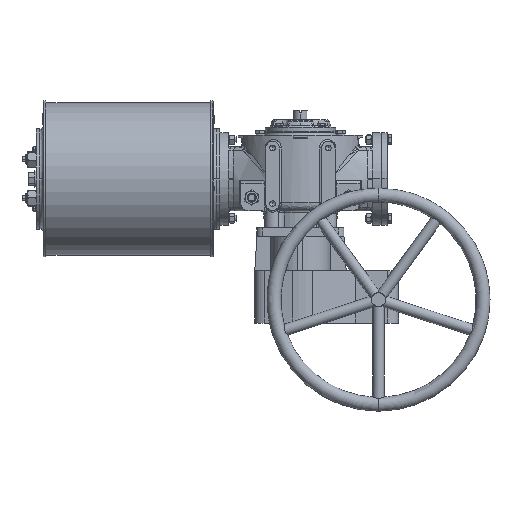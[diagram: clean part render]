
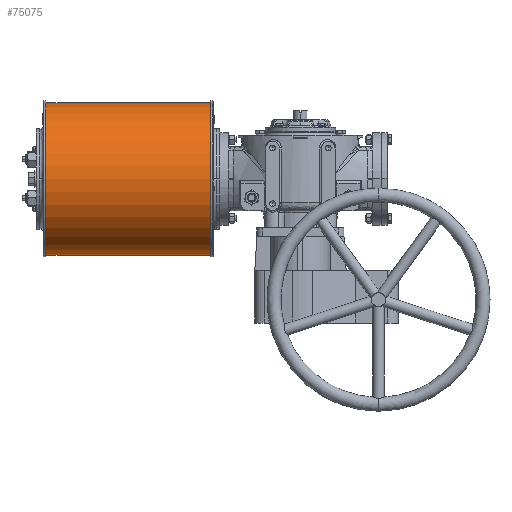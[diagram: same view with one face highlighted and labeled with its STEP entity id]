
A CAD part, front view. The second image highlights one B-rep face of the part: STEP entity #75075.
In plain terms, the highlighted cylindrical face has radius 136.5 mm (diameter 273 mm), a partial arc.
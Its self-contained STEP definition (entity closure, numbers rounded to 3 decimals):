
#4733 = VERTEX_POINT ( 'NONE', #18956 ) ;
#6682 = EDGE_CURVE ( 'NONE', #27305, #76774, #82133, .T. ) ;
#7847 = CIRCLE ( 'NONE', #17249, 136.5 ) ;
#7907 = CIRCLE ( 'NONE', #50933, 136.5 ) ;
#8529 = CARTESIAN_POINT ( 'NONE',  ( -161.5, 22.5, -79. ) ) ;
#9400 = DIRECTION ( 'NONE',  ( 1., 0., 0. ) ) ;
#12163 = DIRECTION ( 'NONE',  ( 1., 0., 0. ) ) ;
#14665 = DIRECTION ( 'NONE',  ( 1., 0., 0. ) ) ;
#15600 = EDGE_CURVE ( 'NONE', #4733, #37384, #47682, .T. ) ;
#17249 = AXIS2_PLACEMENT_3D ( 'NONE', #48772, #37819, #23945 ) ;
#18956 = CARTESIAN_POINT ( 'NONE',  ( -456.5, 22.5, -79. ) ) ;
#20972 = CARTESIAN_POINT ( 'NONE',  ( -456.5, 22.5, 57.5 ) ) ;
#23211 = ORIENTED_EDGE ( 'NONE', *, *, #6682, .F. ) ;
#23945 = DIRECTION ( 'NONE',  ( 0., 0., 1. ) ) ;
#27305 = VERTEX_POINT ( 'NONE', #71510 ) ;
#28750 = CARTESIAN_POINT ( 'NONE',  ( -456.5, 22.5, -79. ) ) ;
#33858 = DIRECTION ( 'NONE',  ( 0., 0., 1. ) ) ;
#34026 = DIRECTION ( 'NONE',  ( 0., 0., 1. ) ) ;
#37384 = VERTEX_POINT ( 'NONE', #8529 ) ;
#37819 = DIRECTION ( 'NONE',  ( -1., 0., 0. ) ) ;
#40166 = CARTESIAN_POINT ( 'NONE',  ( -456.5, 22.5, 57.5 ) ) ;
#41648 = CARTESIAN_POINT ( 'NONE',  ( -161.5, 22.5, 194. ) ) ;
#45763 = ORIENTED_EDGE ( 'NONE', *, *, #76990, .T. ) ;
#47235 = ORIENTED_EDGE ( 'NONE', *, *, #15600, .T. ) ;
#47682 = LINE ( 'NONE', #28750, #82358 ) ;
#47705 = FACE_OUTER_BOUND ( 'NONE', #56870, .T. ) ;
#48772 = CARTESIAN_POINT ( 'NONE',  ( -161.5, 22.5, 57.5 ) ) ;
#50044 = CARTESIAN_POINT ( 'NONE',  ( -456.5, 22.5, 194. ) ) ;
#50933 = AXIS2_PLACEMENT_3D ( 'NONE', #20972, #14665, #34026 ) ;
#51134 = AXIS2_PLACEMENT_3D ( 'NONE', #40166, #65882, #33858 ) ;
#53643 = CYLINDRICAL_SURFACE ( 'NONE', #51134, 136.5 ) ;
#56870 = EDGE_LOOP ( 'NONE', ( #76808, #47235, #45763, #23211 ) ) ;
#57484 = VECTOR ( 'NONE', #12163, 1000. ) ;
#65882 = DIRECTION ( 'NONE',  ( 1., 0., 0. ) ) ;
#68253 = EDGE_CURVE ( 'NONE', #27305, #4733, #7907, .T. ) ;
#71510 = CARTESIAN_POINT ( 'NONE',  ( -456.5, 22.5, 194. ) ) ;
#75075 = ADVANCED_FACE ( 'NONE', ( #47705 ), #53643, .T. ) ;
#76774 = VERTEX_POINT ( 'NONE', #41648 ) ;
#76808 = ORIENTED_EDGE ( 'NONE', *, *, #68253, .T. ) ;
#76990 = EDGE_CURVE ( 'NONE', #37384, #76774, #7847, .T. ) ;
#82133 = LINE ( 'NONE', #50044, #57484 ) ;
#82358 = VECTOR ( 'NONE', #9400, 1000. ) ;
